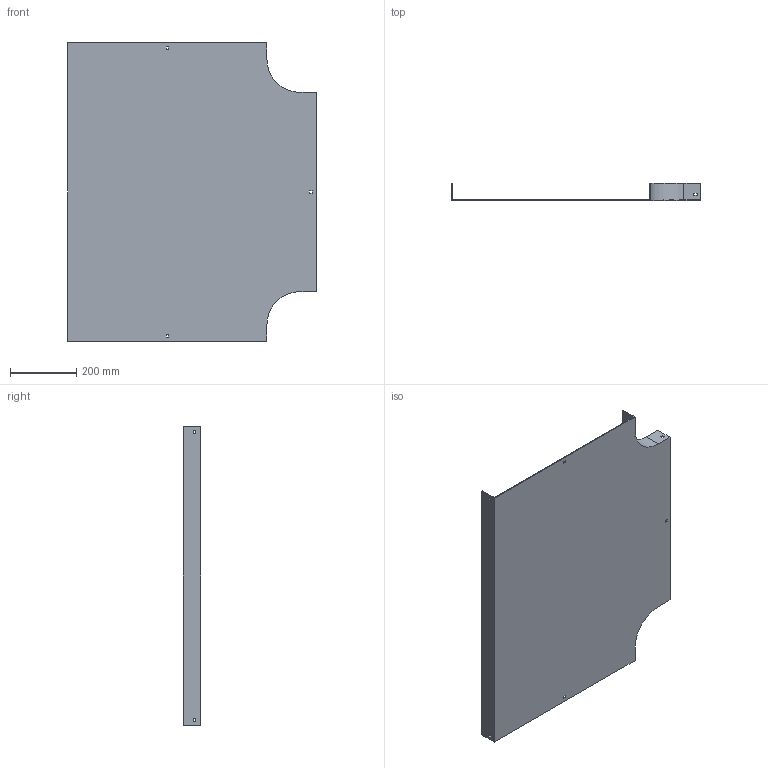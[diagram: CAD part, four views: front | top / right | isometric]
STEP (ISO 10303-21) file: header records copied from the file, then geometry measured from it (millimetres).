
FILE_DESCRIPTION (( 'STEP AP214' ), '1' );
FILE_NAME ('15B1B600.step', '2025-02-21T09:54:28', ( '' ), ( '' ), 'SwSTEP 2.0', 'SolidWorks 2023', '' );
FILE_SCHEMA (( 'AUTOMOTIVE_DESIGN' ));
Length unit declared in the file: millimetre
Products named in the file (1): 15B1B600
Bounding box: 754 x 52 x 904 mm (x, y, z)
Volume: 2482759.7 mm3; surface area: 1432083.4 mm2
Topology: 1 solids, 1 shells, 58 faces, 168 edges, 112 vertices
Faces by surface type: plane 54, cylinder 4
Entity records: 1939 total; most frequent: CARTESIAN_POINT 339, ORIENTED_EDGE 336, DIRECTION 294, EDGE_CURVE 168, VECTOR 160, LINE 160, VERTEX_POINT 112, EDGE_LOOP 76
